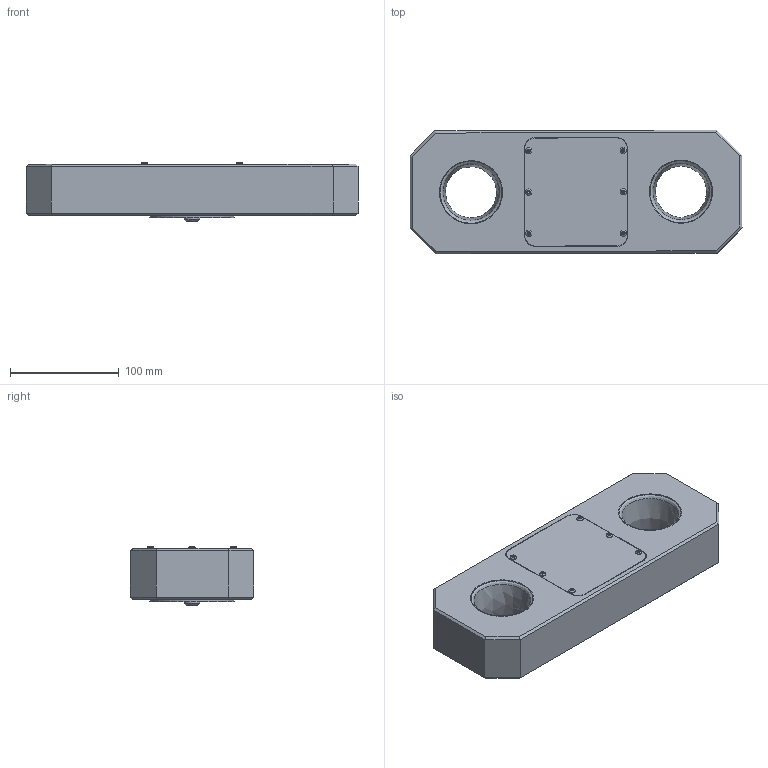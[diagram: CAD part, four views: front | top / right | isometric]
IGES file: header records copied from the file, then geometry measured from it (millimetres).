
Global section: file name: RLP12T; native system: Autodesk Inventor 2016; preprocessor: unknown; author: rdivakaran; date: 20180811.121306; units: millimetre
Bounding box: 305.2 x 113.78 x 54.32 mm (x, y, z)
Volume: 1241798 mm3; surface area: 288541.3 mm2
Topology: 67 solids, 67 shells, 3945 faces, 10140 edges, 6600 vertices
Faces by surface type: bspline 3945
